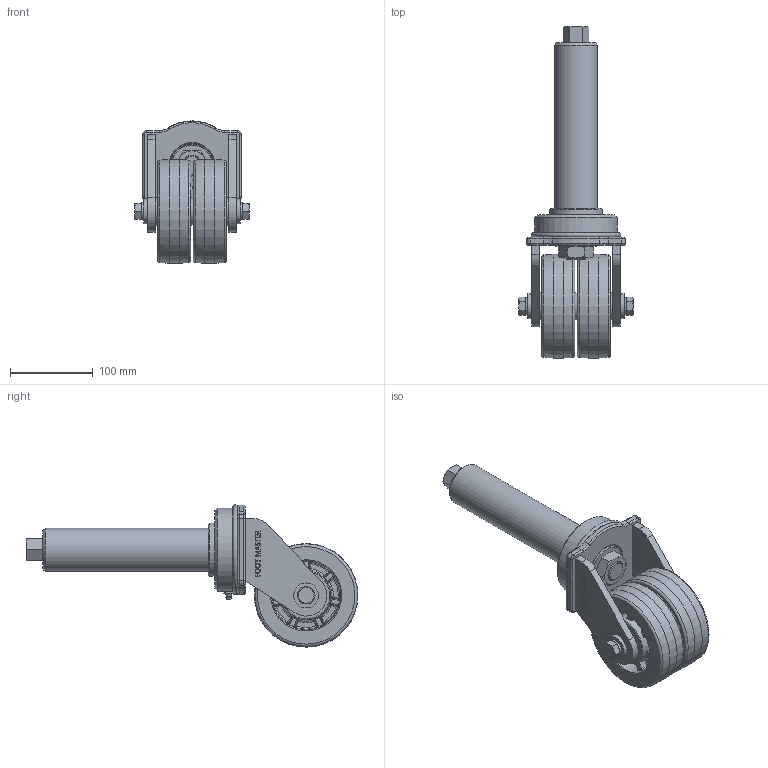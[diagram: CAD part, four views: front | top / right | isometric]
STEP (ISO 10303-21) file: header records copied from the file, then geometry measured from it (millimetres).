
FILE_DESCRIPTION(/* description */ (''),/* implementation_level */ '2;1');
FILE_NAME(/* name */ 'C:\Users\admin\Desktop\업무폴더\일자별 업무\2024\03월\03.08\홈페이지용 3D\3D\GXTT-125-ASS-HUD-PM52x200L_2.stp',/* time_stamp */ '2024-03-13T08:29:31+09:00',/* author */ ('admin'),/* organization */ (''),/* preprocessor_version */ 'ST-DEVELOPER v18.1',/* originating_system */ 'Autodesk Inventor 2021',/* authorisation */ '');
FILE_SCHEMA (('CONFIG_CONTROL_DESIGN'));
Length unit declared in the file: millimetre
Products named in the file (1): GXTT-125-ASS-HUD-PM52x200L
Bounding box: 138 x 400.5 x 171.75 mm (x, y, z)
Volume: 1761389.4 mm3; surface area: 223001.8 mm2
Topology: 1 solids, 1 shells, 1186 faces, 2833 edges, 1706 vertices
Faces by surface type: bspline 425, plane 402, cylinder 159, torus 149, cone 51
Full cylindrical faces by diameter (mm): 1 x1, 20.6 x2, 24 x1, 30 x2, 33 x3, 36 x1, 50 x1, 52 x1, 54 x1, 60 x1, 64 x1, 85 x1, 100 x1, 125 x2
Entity records: 45970 total; most frequent: CARTESIAN_POINT 20263, ORIENTED_EDGE 5694, DIRECTION 4849, EDGE_CURVE 2847, AXIS2_PLACEMENT_3D 1932, VERTEX_POINT 1713, EDGE_LOOP 1249, FACE_OUTER_BOUND 1186
